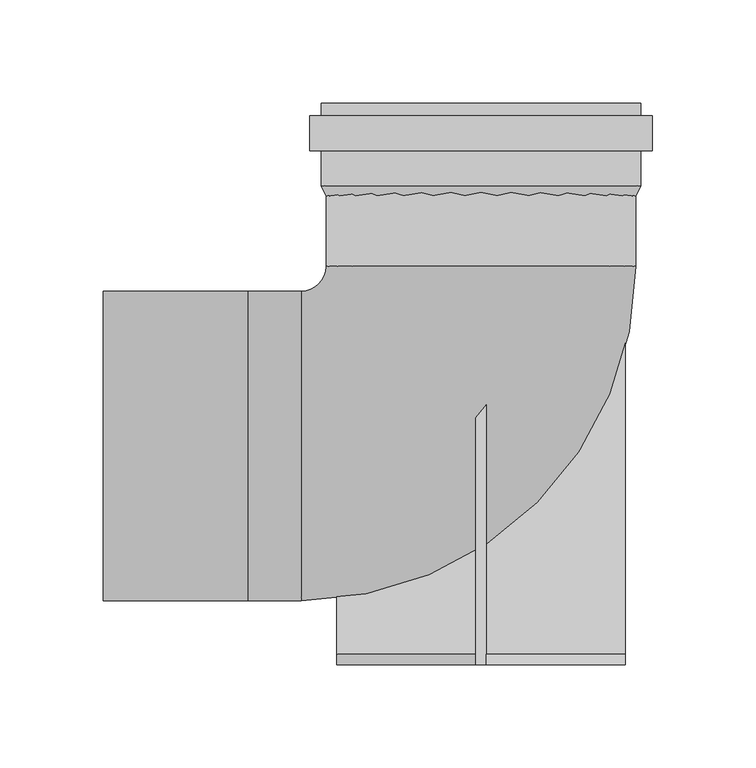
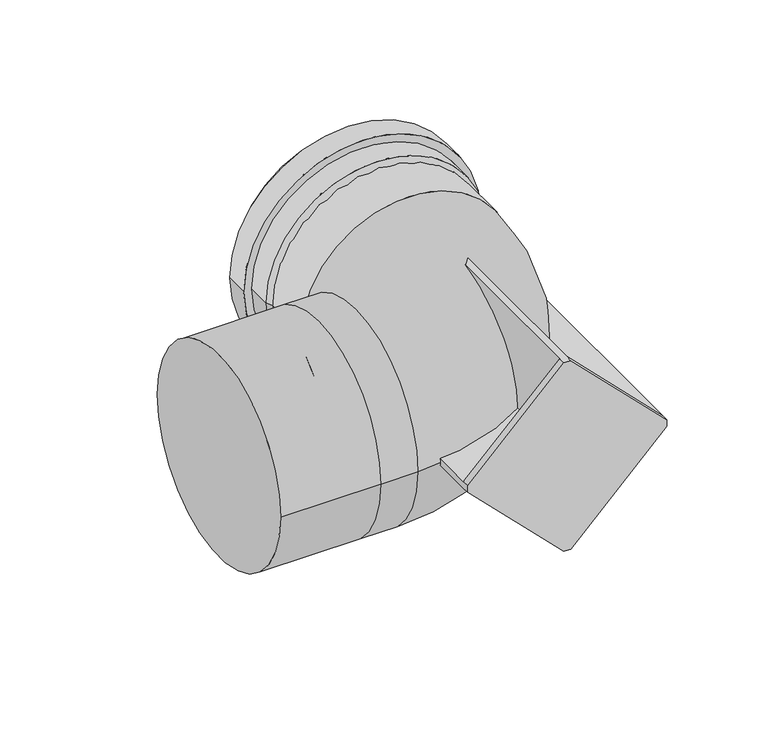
"""IFC4 building model written with IfcOpenShell, lengths in millimetres: duct fitting geometry, NLRS_57_DUF_UN_Twinline Supportbend_M&G : ø130 - 150 - 200."""

from ifc_helpers import new_model, si_unit, point, frame, origin, origin_2d, place, context, project, spatial, polyline, circle_curve, ellipse_curve, trimmed, segment, composite_curve, outline, extrude, faceted_brep, source, transform, mapped, element, save
from ifc_brep_helpers import plane_surface, cylinder_surface, revolved_surface, advanced_brep


def duct_fitting_9e2eeb5f(model_context):
    return source(origin(), model_context, "Body", "SolidModel", [
        faceted_brep([(-2.5, 60.0, 2.5), (-2.5, 60.0, 69.9), (2.5, 60.0, 69.9), (2.5, 60.0, 2.5), (69.9, 60.0, 2.5), (69.9, 60.0, -2.5), (2.5, 60.0, -2.5), (2.5, 60.0, -69.9), (-2.5, 60.0, -69.9), (-2.5, 60.0, -2.5), (-69.9, 60.0, -2.5), (-69.9, 60.0, 2.5), (-69.9, -106.0, 2.5), (-69.9, -106.0, -2.5), (-2.5, -106.0, -69.9), (2.5, -106.0, -69.9), (69.9, -106.0, -2.5), (69.9, -106.0, 2.5), (2.5, -106.0, 69.9), (-2.5, -106.0, 69.9), (69.9, -101.0, 2.5), (69.9, -101.0, -2.5), (2.5, -101.0, -2.5), (2.5, -101.0, -69.9), (-2.5, -101.0, -69.9), (-2.5, -101.0, -2.5), (-69.9, -101.0, -2.5), (-69.9, -101.0, 2.5), (-2.5, -101.0, 2.5), (2.5, -101.0, 69.9), (2.5, -101.0, 2.5), (-2.5, -101.0, 69.9)], [[[0, 1, 2, 3, 4, 5, 6, 7, 8, 9, 10, 11]], [[12, 13, 14, 15, 16, 17, 18, 19]], [[5, 4, 20, 17, 16, 21]], [[6, 5, 21, 22]], [[7, 6, 22, 23]], [[8, 7, 23, 15, 14, 24]], [[9, 8, 24, 25]], [[10, 9, 25, 26]], [[11, 10, 26, 13, 12, 27]], [[0, 11, 27, 28]], [[29, 20, 30]], [[21, 23, 22]], [[24, 26, 25]], [[27, 31, 28]], [[20, 29, 18, 17]], [[23, 21, 16, 15]], [[1, 0, 28, 31]], [[2, 1, 31, 19, 18, 29]], [[3, 2, 29, 30]], [[4, 3, 30, 20]], [[26, 24, 14, 13]], [[31, 27, 12, 19]]]),
        advanced_brep(
        [(-183.0, 75.0, 0.0), (-183.0, -75.0, 0.0), (-113.0, 75.0, 0.0), (-113.0, -75.0, 0.0), (-87.0, -75.0, 0.0), (-87.0, 75.0, 0.0), (75.0, 87.0, 0.0), (-75.0, 87.0, 0.0), (75.0, 126.0, 0.0), (0.0, 126.0, 75.0), (-75.0, 126.0, 0.0), (0.0, 126.0, -75.0), (0.0, 128.0, -75.0), (0.0, 128.0, 75.0)],
        [
            (0, 1, circle_curve(frame((-183.0, 0.0, 0.0), z_axis=(-1.0, 0.0, 0.0), x_axis=(0.0, -1.0, 0.0)), 75.0)),
            (1, 0, circle_curve(frame((-183.0, 0.0, 0.0), z_axis=(-1.0, 0.0, 0.0), x_axis=(0.0, -1.0, 0.0)), 75.0)),
            (0, 2),
            (2, 3, circle_curve(frame((-113.0, 0.0, 0.0), z_axis=(-1.0, 0.0, 0.0), x_axis=(0.0, -1.0, 0.0)), 75.0)),
            (3, 1),
            (3, 2, circle_curve(frame((-113.0, 0.0, 0.0), z_axis=(-1.0, 0.0, 0.0), x_axis=(0.0, -1.0, 0.0)), 75.0)),
            (3, 4),
            (4, 5, circle_curve(frame((-87.0, 0.0, 0.0), z_axis=(-1.0, 0.0, 0.0), x_axis=(0.0, 1.0, 0.0)), 75.0)),
            (5, 2),
            (5, 4, circle_curve(frame((-87.0, 0.0, 0.0), z_axis=(-1.0, 0.0, 0.0), x_axis=(0.0, 1.0, 0.0)), 75.0)),
            (4, 6, circle_curve(frame((-87.0, 87.0, 0.0), z_axis=(0.0, 0.0, 1.0), x_axis=(0.0, -1.0, 0.0)), 162.0)),
            (6, 7, circle_curve(frame((0.0, 87.0, 0.0), z_axis=(0.0, -1.0, 0.0), x_axis=(-1.0, 0.0, 0.0)), 75.0)),
            (7, 5, circle_curve(frame((-87.0, 87.0, 0.0), z_axis=(0.0, 0.0, -1.0), x_axis=(0.0, -1.0, 0.0)), 12.0)),
            (7, 6, circle_curve(frame((0.0, 87.0, 0.0), z_axis=(0.0, -1.0, 0.0), x_axis=(-1.0, 0.0, 0.0)), 75.0)),
            (6, 8),
            (8, 9, circle_curve(frame((0.0, 126.0, 0.0), z_axis=(0.0, -1.0, 0.0), x_axis=(-1.0, 0.0, 0.0)), 75.0)),
            (9, 10, circle_curve(frame((0.0, 126.0, 0.0), z_axis=(0.0, -1.0, 0.0), x_axis=(-1.0, 0.0, 0.0)), 75.0)),
            (10, 7),
            (10, 11, circle_curve(frame((0.0, 126.0, 0.0), z_axis=(0.0, -1.0, 0.0), x_axis=(-1.0, 0.0, 0.0)), 75.0)),
            (11, 8, circle_curve(frame((0.0, 126.0, 0.0), z_axis=(0.0, -1.0, 0.0), x_axis=(-1.0, 0.0, 0.0)), 75.0)),
            (12, 13, circle_curve(frame((0.0, 128.0, 0.0), z_axis=(0.0, 1.0, 0.0), x_axis=(0.0, 0.0, 1.0)), 75.0)),
            (13, 12, circle_curve(frame((0.0, 128.0, 0.0), z_axis=(0.0, 1.0, 0.0), x_axis=(0.0, 0.0, 1.0)), 75.0)),
            (12, 11),
            (9, 13),
        ],
        [
            plane_surface(frame((-183.0, -75.0, 0.0), z_axis=(-1.0, 0.0, 0.0), x_axis=(0.0, 0.0, 1.0))),
            cylinder_surface(frame((-113.0, 0.0, 0.0), z_axis=(-1.0, 0.0, 0.0), x_axis=(0.0, -1.0, 0.0)), 75.0),
            cylinder_surface(frame((-113.0, 0.0, 0.0), z_axis=(-1.0, 0.0, 0.0), x_axis=(0.0, 1.0, 0.0)), 75.0),
            revolved_surface(trimmed(ellipse_curve(frame((-87.0, 0.0, 0.0), z_axis=(-1.0, 0.0, 0.0), x_axis=(0.0, 1.0, 0.0)), 75.0, 75.0), [point((-87.0, -75.0, 0.0))], [point((-87.0, 75.0, 0.0))], True, "CARTESIAN"), (-87.0, 87.0, 0.0), (0.0, 0.0, 1.0)),
            revolved_surface(trimmed(ellipse_curve(frame((-87.0, 0.0, 0.0), z_axis=(-1.0, 0.0, 0.0), x_axis=(0.0, 1.0, 0.0)), 75.0, 75.0), [point((-87.0, 75.0, 0.0))], [point((-87.0, -75.0, 0.0))], True, "CARTESIAN"), (-87.0, 87.0, 0.0), (0.0, 0.0, 1.0)),
            cylinder_surface(frame((0.0, 87.0, 0.0), z_axis=(0.0, -1.0, 0.0), x_axis=(-1.0, 0.0, 0.0)), 75.0),
            plane_surface(frame((0.0, 128.0, 75.0), z_axis=(0.0, 1.0, 0.0), x_axis=(1.0, 0.0, 0.0))),
            cylinder_surface(frame((0.0, 126.0, 0.0), z_axis=(0.0, 1.0, 0.0), x_axis=(0.0, 0.0, 1.0)), 75.0),
        ],
        [
            (0, [[1, 2]]),
            (1, [[-1, 3, 4, 5]]),
            (1, [[-2, -5, 6, -3]]),
            (2, [[7, 8, 9, -6]]),
            (2, [[-7, -4, -9, 10]]),
            (3, [[-8, 11, 12, 13]]),
            (4, [[-10, -13, 14, -11]]),
            (5, [[-12, 15, 16, 17, 18]]),
            (5, [[-14, -18, 19, 20, -15]]),
            (6, [[21, 22]]),
            (7, [[-21, 23, -19, -17, 24]]),
            (7, [[-22, -24, -16, -20, -23]]),
        ],
    ),
        extrude(outline(composite_curve([segment(trimmed(circle_curve(origin_2d(), 83.0), [point((0.0, 83.0))], [point((0.0, -83.0))], False, "CARTESIAN"), True, "CONTINUOUS"), segment(trimmed(circle_curve(origin_2d(), 83.0), [point((0.0, -83.0))], [point((0.0, 83.0))], False, "CARTESIAN"), True, "CONTINUOUS")], self_intersect=False), holes=[composite_curve([segment(trimmed(circle_curve(origin_2d(), 77.5), [point((0.0, -77.5))], [point((0.0, 77.5))], True, "CARTESIAN"), True, "CONTINUOUS"), segment(trimmed(circle_curve(origin_2d(), 77.5), [point((0.0, 77.5))], [point((0.0, -77.5))], True, "CARTESIAN"), True, "CONTINUOUS")], self_intersect=False)]), frame((0.0, 143.0, 0.0), z_axis=(0.0, 1.0, 0.0), x_axis=(0.0, 0.0, 1.0)), (0.0, 0.0, 1.0), 17.0),
        advanced_brep(
        [(-77.5, 126.0, 0.0), (77.5, 126.0, 0.0), (77.5, 166.0, 0.0), (-77.5, 166.0, 0.0), (-75.0, 121.0, 0.0), (75.0, 121.0, 0.0), (-75.0, 166.0, 0.0), (75.0, 166.0, 0.0)],
        [
            (0, 1, circle_curve(frame((0.0, 126.0, 0.0), z_axis=(0.0, 1.0, 0.0), x_axis=(1.0, 0.0, 0.0)), 77.5)),
            (1, 2),
            (2, 3, circle_curve(frame((0.0, 166.0, 0.0), z_axis=(0.0, -1.0, 0.0), x_axis=(1.0, 0.0, 0.0)), 77.5)),
            (3, 0),
            (4, 5, circle_curve(frame((0.0, 121.0, 0.0), z_axis=(0.0, 1.0, 0.0), x_axis=(1.0, 0.0, 0.0)), 75.0)),
            (5, 1),
            (0, 4),
            (6, 7, circle_curve(frame((0.0, 166.0, 0.0), z_axis=(0.0, 1.0, 0.0), x_axis=(1.0, 0.0, 0.0)), 75.0)),
            (7, 5),
            (4, 6),
            (2, 3, circle_curve(frame((0.0, 166.0, 0.0), z_axis=(0.0, 1.0, 0.0), x_axis=(-1.0, 0.0, 0.0)), 77.5)),
            (6, 7, circle_curve(frame((0.0, 166.0, 0.0), z_axis=(0.0, -1.0, 0.0), x_axis=(-1.0, 0.0, 0.0)), 75.0)),
            (1, 0, circle_curve(frame((0.0, 126.0, 0.0), z_axis=(0.0, 1.0, 0.0), x_axis=(-1.0, 0.0, 0.0)), 77.5)),
            (5, 4, circle_curve(frame((0.0, 121.0, 0.0), z_axis=(0.0, 1.0, 0.0), x_axis=(-1.0, 0.0, 0.0)), 75.0)),
        ],
        [
            cylinder_surface(frame((0.0, 126.0, 0.0), z_axis=(0.0, -1.0, 0.0), x_axis=(1.0, 0.0, 0.0)), 77.5),
            revolved_surface(polyline([(77.5, 126.0, 0.0), (75.0, 121.0, 0.0)]), (0.0, 126.0, 0.0), (0.0, -1.0, 0.0)),
            revolved_surface(polyline([(75.0, 121.0, 0.0), (75.0, 166.0, 0.0)]), (0.0, 126.0, 0.0), (0.0, -1.0, 0.0)),
            plane_surface(frame((0.0, 166.0, 0.0), z_axis=(0.0, 1.0, 0.0), x_axis=(-1.0, 0.0, 0.0))),
            cylinder_surface(frame((0.0, 126.0, 0.0), z_axis=(0.0, -1.0, 0.0), x_axis=(-1.0, 0.0, 0.0)), 77.5),
            revolved_surface(polyline([(-77.5, 126.0, 0.0), (-75.0, 121.0, 0.0)]), (0.0, 126.0, 0.0), (0.0, -1.0, 0.0)),
            revolved_surface(polyline([(-75.0, 121.0, 0.0), (-75.0, 166.0, 0.0)]), (0.0, 126.0, 0.0), (0.0, -1.0, 0.0)),
        ],
        [
            (0, [[1, 2, 3, 4]]),
            (1, [[5, 6, -1, 7]]),
            (2, [[8, 9, -5, 10]]),
            (3, [[11, -3], [12, -8]]),
            (4, [[13, -4, -11, -2]]),
            (5, [[14, -7, -13, -6]]),
            (6, [[-12, -10, -14, -9]]),
        ],
    ),
    ])


if __name__ == "__main__":
    model = new_model("IFC4")
    model_context = context("Model", 3, world=origin())
    ifc_project = project(units=[si_unit("LENGTHUNIT", "METRE", prefix="MILLI")], contexts=[model_context])
    site = spatial("IfcSite", under=ifc_project)
    building = spatial("IfcBuilding", under=site)
    placement = place(None, origin())
    duct_fitting_shape = duct_fitting_9e2eeb5f(model_context)
    element("IfcDuctFitting", 1, ObjectType="NLRS_57_DUF_UN_Twinline Supportbend_M&G : ø130 - 150 - 200", at=placement, inside=building, context=model_context, shape_type="MappedRepresentation", body=[
        mapped(duct_fitting_shape, transform((0.0, 0.0, 0.0), x_axis=(1.0, 0.0, 0.0), y_axis=(0.0, 1.0, 0.0), z_axis=(0.0, 0.0, 1.0))),
    ])
    save(model, "model.ifc")
